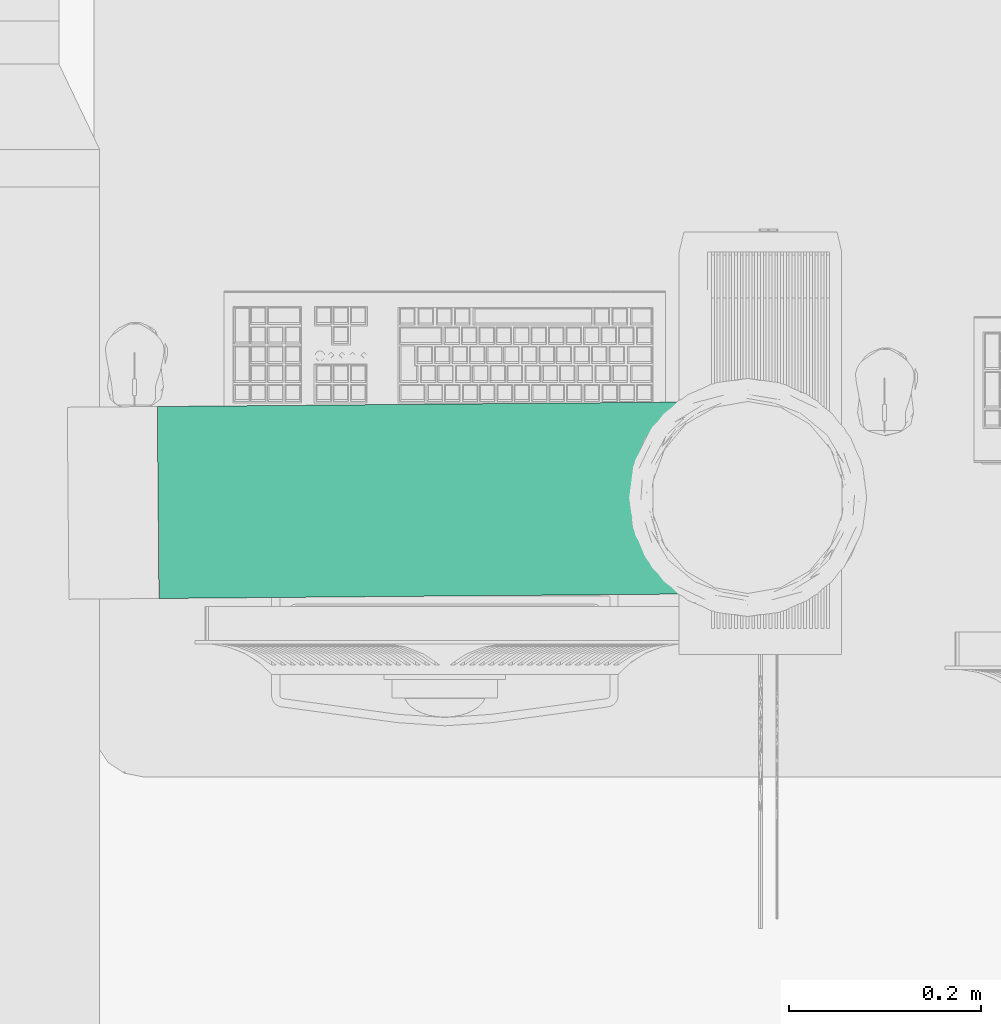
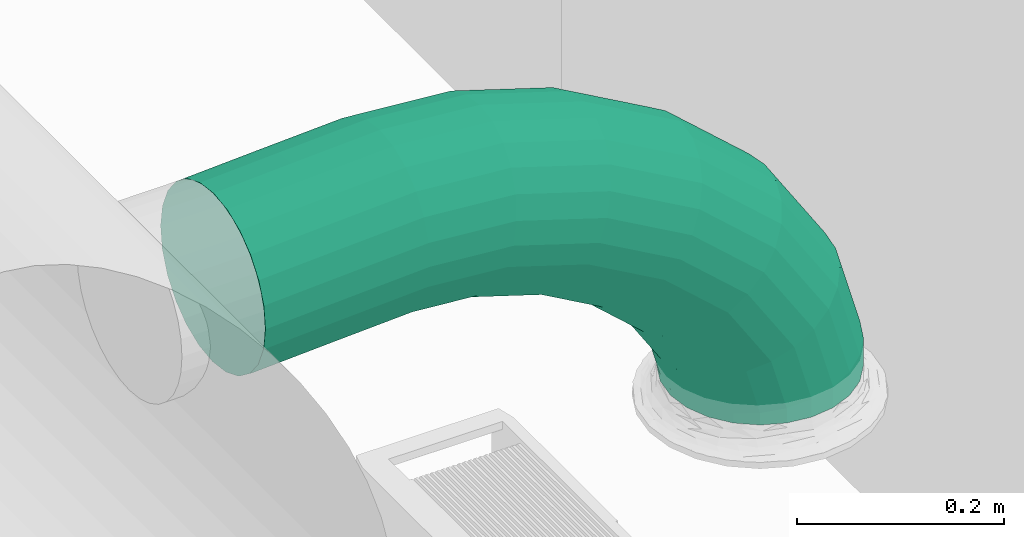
# One storey, part 25 of 31: 1 flow segment.
"""IFC2X3 building model written with IfcOpenShell, lengths in millimetres."""

import ifcopenshell
import ifcopenshell.guid

model = None  # the IFC model being written
_history = None  # IfcOwnerHistory: only IFC2X3 demands one
_inside = {}  # id of a spatial element -> (the spatial element, [elements in it])
_under = {}  # id of a project, library or spatial element -> (it, [spatial elements below it])
_declared = {}  # id of a project -> (the project, [libraries it declares])
_typed = {}  # id of a type object -> (the type object, [elements of that type])
_made_of = {}  # id of a material, layer set ... -> (it, [elements and type objects made of it])


def new_model(schema):
    """Start an empty IFC model of exactly this schema.

    Asked for "IFC4X3", IfcOpenShell would pick the latest addendum, in which some entities
    have other attributes; the version numbers below select the first issue.
    IFC2X3 requires an IfcOwnerHistory on every rooted entity: one is made here for all.
    """
    global model, _history
    if schema == "IFC4X3":
        model = ifcopenshell.file(schema_version=(4, 3, 0, 0))
    else:
        model = ifcopenshell.file(schema=schema)
    _inside.clear()
    _under.clear()
    _declared.clear()
    _typed.clear()
    _made_of.clear()
    _history = None
    if model.schema == "IFC2X3":
        org = make("IfcOrganization", Name="unknown")
        user = make(
            "IfcPersonAndOrganization",
            ThePerson=make("IfcPerson", FamilyName="unknown"),
            TheOrganization=org,
        )
        app = make(
            "IfcApplication",
            ApplicationDeveloper=org,
            Version="unknown",
            ApplicationFullName="unknown",
            ApplicationIdentifier="unknown",
        )
        _history = make(
            "IfcOwnerHistory",
            OwningUser=user,
            OwningApplication=app,
            ChangeAction="ADDED",
            CreationDate=0,
        )
    return model


def make(cls, **values):
    """One entity of the class cls with the attributes given. An attribute that is None is left unset."""
    return model.create_entity(
        cls, **{name: value for name, value in values.items() if value is not None}
    )


def entity(cls, *values):
    """Any entity or typed value of the class cls, its attributes in the order of the schema. None: left unset."""
    e = model.create_entity(cls)
    for i, value in enumerate(values):
        if value is not None:
            e[i] = value
    return e


def rooted(cls, **values):
    """An entity with a GlobalId (a new one), such as an element, a storey or a relation."""
    return make(cls, GlobalId=ifcopenshell.guid.new(), OwnerHistory=_history, **values)


def si_unit(unit_type, name, prefix=None):
    """IfcSIUnit, for example si_unit("LENGTHUNIT", "METRE", prefix="MILLI")."""
    return make("IfcSIUnit", UnitType=unit_type, Prefix=prefix, Name=name)


def converted_unit(unit_type, name, factor, base, dimensions=None, offset=None):
    """IfcConversionBasedUnit, such as the inch: factor (a typed value) times the base unit."""
    return make(
        "IfcConversionBasedUnit"
        if offset is None
        else "IfcConversionBasedUnitWithOffset",
        ConversionOffset=offset,
        Dimensions=None
        if dimensions is None
        else entity("IfcDimensionalExponents", *dimensions),
        UnitType=unit_type,
        Name=name,
        ConversionFactor=make(
            "IfcMeasureWithUnit", ValueComponent=factor, UnitComponent=base
        ),
    )


def derived_unit(unit_type, elements):
    """IfcDerivedUnit: a product of units, each with its exponent."""
    return make(
        "IfcDerivedUnit",
        Elements=[
            make("IfcDerivedUnitElement", Unit=unit, Exponent=power)
            for unit, power in elements
        ],
        UnitType=unit_type,
    )


def assignment(units):
    """IfcUnitAssignment: the units of a project."""
    return None if units is None else make("IfcUnitAssignment", Units=units)


def point(xyz):
    """IfcCartesianPoint."""
    return None if xyz is None else make("IfcCartesianPoint", Coordinates=xyz)


def direction(xyz):
    """IfcDirection."""
    return None if xyz is None else make("IfcDirection", DirectionRatios=xyz)


def frame(location, z_axis=None, x_axis=None):
    """IfcAxis2Placement3D, a coordinate frame: its origin and axes. An axis left out is left unset."""
    return make(
        "IfcAxis2Placement3D",
        Location=point(location),
        Axis=direction(z_axis),
        RefDirection=direction(x_axis),
    )


def origin():
    """The frame at (0, 0, 0) with its axes left unset."""
    return frame((0.0, 0.0, 0.0))


def place(relative_to, where):
    """IfcLocalPlacement: puts the frame where relative to a parent placement (None: the world)."""
    return make(
        "IfcLocalPlacement", PlacementRelTo=relative_to, RelativePlacement=where
    )


def context(
    kind, dimensions, precision=None, world=None, true_north=None, identifier=None
):
    """IfcGeometricRepresentationContext, for example the 3D "Model" context."""
    return make(
        "IfcGeometricRepresentationContext",
        ContextIdentifier=identifier,
        ContextType=kind,
        CoordinateSpaceDimension=dimensions,
        Precision=precision,
        WorldCoordinateSystem=world,
        TrueNorth=true_north,
    )


def subcontext(parent, identifier, kind, view, scale=None):
    """IfcGeometricRepresentationSubContext, for example "Body" below "Model"."""
    return make(
        "IfcGeometricRepresentationSubContext",
        ContextIdentifier=identifier,
        ContextType=kind,
        ParentContext=parent,
        TargetScale=scale,
        TargetView=view,
    )


def project(units=None, contexts=None):
    """IfcProject with its units and contexts."""
    return rooted(
        "IfcProject",
        Name="project",
        RepresentationContexts=contexts,
        UnitsInContext=assignment(units),
    )


def spatial(cls, under=None, at=None, **own):
    """A site, building, storey or space (cls), placed at a placement, below another one or the project."""
    s = rooted(cls, ObjectPlacement=at, **own)
    if under is not None:
        _under.setdefault(under.id(), (under, []))[1].append(s)
    return s


def faces_of(points, faces, orient=None, outer=None):
    """IfcFace entities. A face is a list of loops; a loop is a list of indices into points, from 0.

    orient and outer hold one flag for each loop. By default every Orientation is true, the
    first loop of a face is its IfcFaceOuterBound and the others are IfcFaceBound.
    """
    made = []
    for i, loops in enumerate(faces):
        bounds = []
        for j, loop in enumerate(loops):
            is_outer = j == 0 if outer is None else outer[i][j]
            bounds.append(
                make(
                    "IfcFaceOuterBound" if is_outer else "IfcFaceBound",
                    Bound=make("IfcPolyLoop", Polygon=[points[k] for k in loop]),
                    Orientation=True if orient is None else orient[i][j],
                )
            )
        made.append(make("IfcFace", Bounds=bounds))
    return made


def faceted_brep(points, faces, orient=None, outer=None, voids=None):
    """IfcFacetedBrep: a solid bounded by flat faces; with voids (closed shells), ...WithVoids."""
    shared = [point(p) for p in points]
    hull = make("IfcClosedShell", CfsFaces=faces_of(shared, faces, orient, outer))
    if voids is None:
        return make("IfcFacetedBrep", Outer=hull)
    return make(
        "IfcFacetedBrepWithVoids",
        Outer=hull,
        Voids=[
            make(cls, CfsFaces=faces_of(shared, fs, o, b)) for cls, fs, o, b in voids
        ],
    )


def shape(context_of_items, identifier, shape_type, items):
    """IfcShapeRepresentation: the items that make up one representation, for example the "Body"."""
    return make(
        "IfcShapeRepresentation",
        ContextOfItems=context_of_items,
        RepresentationIdentifier=identifier,
        RepresentationType=shape_type,
        Items=items,
    )


def made_of(thing, what):
    """Note that an element or type object is made of a material, layer set ...; save() writes the relation."""
    if what is not None:
        _made_of.setdefault(what.id(), (what, []))[1].append(thing)
    return thing


def type_object(cls, material=None, **own):
    """A type object (cls), such as IfcWallType, which elements share."""
    return made_of(rooted(cls, **own), material)


def element(
    cls,
    number,
    at=None,
    inside=None,
    cuts=None,
    type_object=None,
    material=None,
    context=None,
    identifier="Body",
    shape_type=None,
    held_by="IfcProductDefinitionShape",
    body=None,
    shapes=None,
    **own,
):
    """One element of the class cls, such as IfcWall. Its Tag is "e" and its number.

    at: its placement. inside: the storey or other place that contains it. cuts: it is an
    opening in that element (IfcRelVoidsElement). A single representation is given by context,
    identifier, shape_type and body (its items); several are given by shapes. held_by: the class
    of the entity that holds the representations. save() writes the other relations.
    """
    e = rooted(cls, Tag="e%d" % number, ObjectPlacement=at, **own)
    if body is not None:
        shapes = [shape(context, identifier, shape_type, body)]
    if shapes is not None:
        e.Representation = make(held_by, Representations=shapes)
    if inside is not None:
        _inside.setdefault(inside.id(), (inside, []))[1].append(e)
    if cuts is not None:
        rooted(
            "IfcRelVoidsElement", RelatingBuildingElement=cuts, RelatedOpeningElement=e
        )
    if type_object is not None:
        _typed.setdefault(type_object.id(), (type_object, []))[1].append(e)
    return made_of(e, material)


def aggregate(whole, parts):
    """IfcRelAggregates: a whole, such as a stair, and the parts it consists of."""
    return rooted("IfcRelAggregates", RelatingObject=whole, RelatedObjects=parts)


def save(model, path):
    """Write the relations noted so far, then the file.

    IfcRelAggregates (storeys below a building ...), IfcRelContainedInSpatialStructure (elements
    in a storey), IfcRelDefinesByType, IfcRelAssociatesMaterial and IfcRelDeclares: one each for
    every whole, place, type object, material and project.
    """
    for whole, parts in _under.values():
        aggregate(whole, parts)
    for where, things in _inside.values():
        rooted(
            "IfcRelContainedInSpatialStructure",
            RelatedElements=things,
            RelatingStructure=where,
        )
    for kind, things in _typed.values():
        rooted("IfcRelDefinesByType", RelatedObjects=things, RelatingType=kind)
    for what, things in _made_of.values():
        rooted("IfcRelAssociatesMaterial", RelatedObjects=things, RelatingMaterial=what)
    for by, libraries in _declared.values():
        rooted("IfcRelDeclares", RelatingContext=by, RelatedDefinitions=libraries)
    model.write(path)


model = new_model("IFC2X3")

# Units and contexts
model_context = context("Model", 3, precision=0.01, world=origin(), true_north=direction((6.123031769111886e-17, 1.0)))
body_context = subcontext(model_context, "Body", "Model", "MODEL_VIEW")
ifc_project = project(units=[si_unit("LENGTHUNIT", "METRE", prefix="MILLI"), si_unit("AREAUNIT", "SQUARE_METRE"), si_unit("VOLUMEUNIT", "CUBIC_METRE"), converted_unit("PLANEANGLEUNIT", "DEGREE", entity("IfcRatioMeasure", 0.017453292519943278), si_unit("PLANEANGLEUNIT", "RADIAN"), dimensions=[0, 0, 0, 0, 0, 0, 0]), si_unit("MASSUNIT", "GRAM", prefix="KILO"), derived_unit("MASSDENSITYUNIT", [(si_unit("MASSUNIT", "GRAM", prefix="KILO"), 1), (si_unit("LENGTHUNIT", "METRE"), -3)]), derived_unit("MOMENTOFINERTIAUNIT", [(si_unit("LENGTHUNIT", "METRE"), 4)]), si_unit("TIMEUNIT", "SECOND"), si_unit("FREQUENCYUNIT", "HERTZ"), si_unit("THERMODYNAMICTEMPERATUREUNIT", "DEGREE_CELSIUS"), derived_unit("THERMALTRANSMITTANCEUNIT", [(si_unit("MASSUNIT", "GRAM", prefix="KILO"), 1), (si_unit("THERMODYNAMICTEMPERATUREUNIT", "KELVIN"), -1), (si_unit("TIMEUNIT", "SECOND"), -3)]), derived_unit("VOLUMETRICFLOWRATEUNIT", [(si_unit("LENGTHUNIT", "METRE"), 3), (si_unit("TIMEUNIT", "SECOND"), -1)]), derived_unit("MASSFLOWRATEUNIT", [(si_unit("MASSUNIT", "GRAM", prefix="KILO"), 1), (si_unit("TIMEUNIT", "SECOND"), -1)]), derived_unit("ROTATIONALFREQUENCYUNIT", [(si_unit("TIMEUNIT", "SECOND"), -1)]), si_unit("ELECTRICCURRENTUNIT", "AMPERE"), si_unit("ELECTRICVOLTAGEUNIT", "VOLT"), si_unit("POWERUNIT", "WATT"), si_unit("FORCEUNIT", "NEWTON", prefix="KILO"), si_unit("ILLUMINANCEUNIT", "LUX"), si_unit("LUMINOUSFLUXUNIT", "LUMEN"), si_unit("LUMINOUSINTENSITYUNIT", "CANDELA"), derived_unit("USERDEFINED", [(si_unit("MASSUNIT", "GRAM", prefix="KILO"), -1), (si_unit("LENGTHUNIT", "METRE"), -2), (si_unit("TIMEUNIT", "SECOND"), 3), (si_unit("LUMINOUSFLUXUNIT", "LUMEN"), 1)]), derived_unit("SOUNDPOWERUNIT", [(si_unit("MASSUNIT", "GRAM", prefix="KILO"), 1), (si_unit("LENGTHUNIT", "METRE"), 2), (si_unit("TIMEUNIT", "SECOND"), -3)]), derived_unit("SOUNDPRESSUREUNIT", [(si_unit("MASSUNIT", "GRAM", prefix="KILO"), 1), (si_unit("LENGTHUNIT", "METRE"), -1), (si_unit("TIMEUNIT", "SECOND"), -2)]), derived_unit("LINEARVELOCITYUNIT", [(si_unit("LENGTHUNIT", "METRE"), 1), (si_unit("TIMEUNIT", "SECOND"), -1)]), si_unit("PRESSUREUNIT", "PASCAL"), derived_unit("USERDEFINED", [(si_unit("LENGTHUNIT", "METRE"), -2), (si_unit("MASSUNIT", "GRAM", prefix="KILO"), 1), (si_unit("TIMEUNIT", "SECOND"), -2)]), derived_unit("LINEARFORCEUNIT", [(si_unit("MASSUNIT", "GRAM", prefix="KILO"), 1), (si_unit("LENGTHUNIT", "METRE"), 1), (si_unit("TIMEUNIT", "SECOND"), -2), (si_unit("LENGTHUNIT", "METRE"), -1)]), derived_unit("PLANARFORCEUNIT", [(si_unit("MASSUNIT", "GRAM", prefix="KILO"), 1), (si_unit("LENGTHUNIT", "METRE"), 1), (si_unit("TIMEUNIT", "SECOND"), -2), (si_unit("LENGTHUNIT", "METRE"), -2)])], contexts=[model_context])

# Site, building, storey
site_placement = place(None, origin())
site = spatial("IfcSite", under=ifc_project, at=site_placement, Name="Default", CompositionType="ELEMENT")
building_placement = place(site_placement, origin())
building = spatial("IfcBuilding", under=site, at=building_placement, CompositionType="ELEMENT")
storey_placement = place(building_placement, frame((0.0, 0.0, 3880.0)))
storey = spatial("IfcBuildingStorey", under=building, at=storey_placement, Name="Niveau 1", CompositionType="ELEMENT", Elevation=3880.0)

# Flow segment
duct_segment_type = type_object("IfcDuctSegmentType", Name="Gaine flexible circulaire:Souple - Circulaire piquage Aldes", PredefinedType="FLEXIBLESEGMENT")
flow_segment_placement = place(storey_placement, frame((-1936.5974043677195, -10036.802766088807, 2827.5000000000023)))
element("IfcFlowSegment", 1, at=flow_segment_placement, inside=storey, type_object=duct_segment_type, Name="Gaine flexible circulaire:Souple - Circulaire piquage Aldes", ObjectType="Gaine flexible circulaire:Souple - Circulaire piquage Aldes", context=body_context, shape_type="Brep", body=[
    faceted_brep([(520.0048217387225, 80.92086157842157, 0.0), (516.5974043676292, 106.80276608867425, 0.0), (520.0048217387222, 132.68467059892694, 0.0), (529.9948639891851, 156.8027660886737, 0.0), (545.8867262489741, 177.51344420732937, 0.0), (566.5974043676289, 193.40530646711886, 0.0), (590.7154998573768, 203.39534871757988, 0.0), (616.5974043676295, 206.80276608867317, 0.0), (642.4793088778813, 203.39534871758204, 0.0), (666.5974043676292, 193.40530646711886, 0.0), (687.3080824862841, 177.51344420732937, 0.0), (703.199944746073, 156.8027660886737, 0.0), (713.1899869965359, 132.68467059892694, 0.0), (716.5974043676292, 106.80276608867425, 0.0), (713.1899869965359, 80.92086157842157, 0.0), (703.199944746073, 56.80276608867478, 0.0), (687.3080824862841, 36.09208797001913, 0.0), (666.5974043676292, 20.20022571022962, 0.0), (642.4793088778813, 10.210183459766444, 0.0), (616.5974043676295, 6.802766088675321, 0.0), (590.7154998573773, 10.210183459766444, 0.0), (566.5974043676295, 20.20022571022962, 0.0), (545.8867262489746, 36.09208797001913, 0.0), (529.9948639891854, 56.80276608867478, 0.0), (716.5974043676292, 106.80276608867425, 35.145896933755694), (713.1899869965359, 80.92086157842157, 34.64060889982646), (703.1999447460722, 56.80276608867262, 33.2204072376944), (687.3080824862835, 36.09208797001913, 30.982076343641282), (666.5974043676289, 20.20022571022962, 28.078154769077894), (642.4793088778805, 10.210183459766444, 24.706539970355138), (616.5974043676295, 6.802766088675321, 21.097001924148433), (590.7154998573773, 10.210183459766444, 17.495524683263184), (566.5974043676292, 20.20022571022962, 14.147542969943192), (545.8867262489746, 36.09208797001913, 11.28121620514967), (520.0048217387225, 80.92086157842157, 7.728733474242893), (516.5974043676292, 106.80276608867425, 7.2846733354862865), (529.9948639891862, 56.80276608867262, 9.091879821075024), (529.9948639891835, 156.80276608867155, 9.210163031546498), (545.8867262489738, 177.51344420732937, 11.4484939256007), (520.0048217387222, 132.68467059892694, 7.789961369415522), (590.7154998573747, 203.39534871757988, 17.72403029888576), (616.5974043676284, 206.80276608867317, 21.33356834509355), (566.5974043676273, 193.4053064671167, 14.352415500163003), (642.4793088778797, 203.39534871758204, 24.935045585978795), (666.5974043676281, 193.40530646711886, 28.28302729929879), (687.3080824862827, 177.51344420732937, 31.14935406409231), (703.199944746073, 156.8027660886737, 33.33869044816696), (713.1899869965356, 132.68467059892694, 34.70183679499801), (1.7054158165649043, 188.60887405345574, 273.2371079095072), (1.8388490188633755, 172.89399672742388, 252.39224522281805), (2.0135426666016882, 152.31973787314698, 236.32511016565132), (2.2175916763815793, 128.2881992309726, 226.1306514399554), (2.4370904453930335, 102.4370904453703, 222.50360456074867), (2.6570804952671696, 76.5281218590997, 225.6911467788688), (2.862569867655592, 52.32694686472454, 235.47605235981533), (3.039554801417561, 31.482835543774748, 251.19149615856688), (3.175974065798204, 15.416279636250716, 271.7664966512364), (3.2625309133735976, 5.222188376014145, 295.79890155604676), (3.293326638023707, 1.5952722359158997, 321.65094219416), (3.2662625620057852, 4.782699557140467, 347.5608447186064), (3.1831830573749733, 14.567252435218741, 371.7628920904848), (3.049749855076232, 30.282129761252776, 392.60775477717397), (2.8750562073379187, 50.85638861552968, 408.67488983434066), (2.6710071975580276, 74.88792725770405, 418.8693485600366), (2.4515084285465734, 100.73903604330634, 422.4963954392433), (2.2315183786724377, 126.64800462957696, 419.3088532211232), (2.026029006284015, 150.8491796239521, 409.5239476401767), (1.8490440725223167, 171.6932909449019, 393.8085038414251), (1.7126248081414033, 187.75984685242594, 373.23350334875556), (1.6260679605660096, 197.9539381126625, 349.2010984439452), (1.5952722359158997, 201.58085425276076, 323.349057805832), (1.6223363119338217, 198.39342693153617, 297.4391552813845), (689.1857292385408, 106.57001673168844, 131.62292488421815), (686.064584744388, 80.69054293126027, 130.11008236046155), (676.8791632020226, 56.579279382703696, 125.85797005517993), (662.2554359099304, 35.879368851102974, 119.15636239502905), (643.1899857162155, 20.00147603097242, 110.46196286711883), (620.9820915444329, 10.027653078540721, 100.3672804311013), (597.14518468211, 6.63759954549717, 89.56025101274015), (573.3037109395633, 10.062341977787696, 78.77735580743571), (551.0824273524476, 20.068489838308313, 68.75343130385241), (531.9956776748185, 35.97414068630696, 60.171591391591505), (517.3441923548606, 56.69535070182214, 53.616674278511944), (508.1264459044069, 80.82000366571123, 49.535386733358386), (504.9706125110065, 106.70404434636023, 48.205861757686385), (508.0917570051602, 132.58351814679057, 49.718704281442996), (517.2771785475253, 156.69478169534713, 53.9708165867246), (531.900905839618, 177.3946922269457, 60.67242424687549), (573.1742502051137, 203.24640799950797, 79.46150621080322), (597.0111570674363, 206.6364615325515, 90.26853562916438), (550.9663560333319, 193.27258504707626, 69.3668237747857), (620.8526308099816, 203.21171910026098, 101.05143083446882), (643.073914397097, 193.20557123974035, 111.07535533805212), (662.1606640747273, 177.29992039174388, 119.65719525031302), (676.8121493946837, 156.57871037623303, 126.2121123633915), (686.0298958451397, 132.45405741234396, 130.29339990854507), (621.3775717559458, 105.99426552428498, 236.58525380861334), (618.813494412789, 80.1195217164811, 234.21010993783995), (611.1938089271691, 56.02155265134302, 227.53434671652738), (599.0377842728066, 35.342595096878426, 217.01290637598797), (583.1738334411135, 19.491885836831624, 203.36280768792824), (564.683058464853, 9.54962451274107, 187.51428232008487), (544.8255751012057, 6.1933598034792, 170.5473810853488), (524.9546380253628, 9.651815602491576, 153.6183702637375), (506.4244187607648, 19.689303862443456, 137.8809339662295), (490.49772112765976, 35.62178634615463, 124.40755246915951), (478.2599232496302, 56.363490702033, 114.11641445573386), (470.5450108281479, 80.50090405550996, 107.7088439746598), (467.87874239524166, 106.38910157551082, 105.62150636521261), (470.44281973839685, 132.26384538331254, 107.99665023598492), (478.06250522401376, 156.36181444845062, 114.67241345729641), (490.2185298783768, 177.04077200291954, 125.19385379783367), (524.5732556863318, 202.83374258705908, 154.69247785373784), (544.4307390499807, 206.1900072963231, 171.65937908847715), (506.08248071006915, 192.89148126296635, 138.84395248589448), (564.3016761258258, 202.73155149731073, 188.58838991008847), (582.8318953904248, 192.6940632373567, 204.32582620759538), (598.7585930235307, 176.76158075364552, 217.79920770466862), (610.9963909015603, 156.01987639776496, 228.09034571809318), (618.7113033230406, 131.88246304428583, 234.49791619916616), (527.2104114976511, 105.19470307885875, 321.13928968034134), (525.2973362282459, 79.32548685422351, 318.1796017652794), (519.5074075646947, 55.24305404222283, 309.8608738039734), (510.23519957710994, 34.58858264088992, 296.7500133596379), (498.11259791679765, 18.769640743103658, 279.7405039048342), (483.96573785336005, 8.864263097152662, 259.9915153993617), (468.7587045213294, 5.547484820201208, 238.84890877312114), (453.52783211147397, 9.045338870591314, 217.75351772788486), (439.31107940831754, 19.119452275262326, 198.14295830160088), (427.07729461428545, 35.0832908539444, 181.35365771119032), (417.66018994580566, 55.848945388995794, 168.5297790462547), (411.7015255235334, 80.00127084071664, 160.54524844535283), (409.607374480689, 105.89432614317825, 157.94419847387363), (411.520449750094, 131.7635423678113, 160.90388638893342), (417.3103784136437, 155.845975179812, 169.2226143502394), (426.5825864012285, 176.5004465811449, 182.33347479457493), (452.8520481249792, 202.2247661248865, 219.09197275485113), (468.0590814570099, 205.54154440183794, 240.23457938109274), (438.7051880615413, 192.3193884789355, 199.34298424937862), (483.28995386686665, 202.04369035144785, 261.32997042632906), (497.50670657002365, 191.96957694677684, 280.9405298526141), (509.74049136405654, 176.0057383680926, 297.7298304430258), (519.1575960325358, 155.2400838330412, 310.5537091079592), (525.1162604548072, 131.08775838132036, 318.53823970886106), (418.0000501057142, 104.26741055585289, 383.258307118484), (416.7537725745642, 78.40385603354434, 379.91934364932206), (412.83799725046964, 54.33733644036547, 370.5345944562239), (406.51957775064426, 33.70794531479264, 355.74361468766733), (398.229103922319, 17.921541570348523, 336.55438517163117), (388.5315578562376, 8.05394253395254, 314.27462018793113), (378.0878112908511, 4.777608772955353, 290.4226489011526), (367.609588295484, 8.315817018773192, 266.6239437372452), (357.81096245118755, 18.4274442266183, 244.50034712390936), (349.3596939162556, 34.42339971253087, 225.55954560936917), (342.831722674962, 55.21358554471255, 211.09232351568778), (338.67191917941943, 79.38118491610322, 202.08459812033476), (337.16376716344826, 105.27921586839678, 199.15023102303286), (338.41004469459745, 131.142770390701, 202.4891944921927), (342.3258200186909, 155.20928998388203, 211.8739436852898), (348.64423951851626, 175.83868110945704, 226.66492345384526), (366.6322594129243, 201.49268389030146, 268.13391795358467), (377.07600597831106, 204.76901765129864, 291.9858892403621), (356.9347133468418, 191.6250848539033, 245.8541529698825), (387.5542289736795, 201.2308094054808, 315.7845944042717), (397.35285481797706, 191.11918219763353, 337.9081910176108), (405.8041233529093, 175.12322671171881, 356.848992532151), (412.33209459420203, 154.33304087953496, 371.3162146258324), (416.4918980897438, 130.16544150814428, 380.32394002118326), (301.36443132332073, 103.27707103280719, 420.64719180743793), (300.8567358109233, 77.41978772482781, 417.0714674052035), (299.01687628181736, 53.37089449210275, 407.02125960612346), (295.97023612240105, 32.769283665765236, 391.18147346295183), (291.9244388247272, 17.018920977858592, 370.63156422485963), (287.15519878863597, 7.193167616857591, 346.77197424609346), (281.98753184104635, 3.9616324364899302, 321.2286951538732), (276.773605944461, 7.544539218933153, 295.7424592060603), (271.86874153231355, 17.697718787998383, 272.0501112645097), (267.60719700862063, 33.72924873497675, 251.7662456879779), (264.27938959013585, 54.546606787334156, 236.2731743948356), (262.1121038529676, 78.73112439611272, 226.6267245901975), (261.253036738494, 104.63466665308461, 223.48428588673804), (261.7607322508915, 130.49194996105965, 227.0600102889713), (263.60059177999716, 154.5408431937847, 237.11021808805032), (266.6472319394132, 175.14245402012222, 252.95000423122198), (275.4622692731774, 200.71857006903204, 297.3595034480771), (280.6299362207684, 203.95010524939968, 322.9027825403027), (270.69302923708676, 190.89281670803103, 273.499913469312), (285.84386211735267, 200.36719846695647, 348.38901848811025), (290.74872652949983, 190.2140188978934, 372.0813664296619), (295.0102710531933, 174.1824889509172, 392.3652320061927), (298.3380784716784, 153.36513089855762, 407.8583032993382), (300.5053642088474, 129.1806132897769, 417.50475310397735), (189.3984437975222, 102.32638080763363, 430.8736737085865), (189.53192375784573, 76.47454164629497, 427.2393871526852), (189.49420164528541, 52.440950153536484, 417.02458003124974), (189.2878481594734, 31.86345587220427, 400.9253745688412), (188.92692594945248, 16.144381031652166, 380.0389050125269), (188.43603126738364, 6.354954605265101, 355.7885497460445), (187.8486177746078, 3.1623098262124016, 329.82693040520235), (187.20471672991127, 6.784020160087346, 303.92328844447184), (186.54820892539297, 16.973272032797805, 279.8429142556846), (185.92383428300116, 33.03568476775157, 259.226845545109), (185.3741429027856, 53.876631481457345, 243.48003332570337), (184.93659534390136, 78.0758360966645, 233.67559682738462), (184.641009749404, 103.9841628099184, 230.48169219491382), (184.50752978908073, 129.83600197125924, 234.1159787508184), (184.5452519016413, 153.8695934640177, 244.33078587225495), (184.7516053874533, 174.44708774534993, 260.4299913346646), (185.60342227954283, 199.95558901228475, 305.56681615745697), (186.1908357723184, 203.14823379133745, 331.5284354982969), (185.11252759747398, 190.1661625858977, 281.3164608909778), (186.8347368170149, 199.5265234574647, 357.43207745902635), (187.4912446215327, 189.3372715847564, 381.5124516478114), (188.11561926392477, 173.27485884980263, 402.1285203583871), (188.66531064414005, 152.43391213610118, 417.8753325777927), (189.10285820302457, 128.2347075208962, 427.67976907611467), (90.19192659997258, 101.48402976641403, 426.53052258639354), (90.57608805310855, 75.63431911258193, 422.90721058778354), (91.24295074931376, 51.60671016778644, 412.7232494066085), (92.14706909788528, 31.038644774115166, 396.672659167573), (93.22682892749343, 15.331802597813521, 375.8492610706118), (94.40864639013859, 5.556578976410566, 351.67213528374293), (95.61198257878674, 2.3791392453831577, 325.7889129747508), (96.75483212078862, 6.0160206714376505, 299.9634929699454), (97.75931170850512, 16.219375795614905, 275.9558349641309), (98.55696771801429, 32.29386282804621, 255.4020211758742), (99.09344121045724, 53.14403204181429, 239.70276004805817), (99.33217240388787, 77.34897886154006, 229.9279302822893), (99.25689216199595, 103.25917616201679, 226.74367037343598), (98.87273070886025, 129.10888681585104, 230.36698237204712), (98.20586801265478, 153.13649576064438, 240.55094355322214), (97.30174966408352, 173.70456115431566, 256.6015337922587), (95.04017237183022, 199.18662695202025, 301.6020576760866), (93.83683618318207, 202.36406668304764, 327.4852799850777), (96.2219898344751, 189.41140333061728, 277.4249318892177), (92.69398664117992, 198.72718525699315, 353.31069998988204), (91.68950705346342, 188.52383013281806, 377.3183579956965), (90.89185104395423, 172.44934310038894, 397.8721717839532), (90.35537755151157, 151.59917388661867, 413.5714329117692), (90.11664635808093, 127.39422706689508, 423.3462626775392), (4.880407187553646, 74.90668701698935, 418.8693485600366), (5.324480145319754, 50.877186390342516, 408.67488983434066), (4.575511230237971, 100.75707070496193, 422.4963954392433), (5.877467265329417, 30.306139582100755, 392.60775477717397), (7.154589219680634, 4.815714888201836, 347.5608447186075), (7.791690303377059, 1.633467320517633, 321.65094219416), (6.501683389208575, 14.595429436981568, 371.7628920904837), (8.369569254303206, 5.265551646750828, 295.79890155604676), (8.848844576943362, 15.46444732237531, 271.7664966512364), (9.196854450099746, 31.53511646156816, 251.19149615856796), (9.389882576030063, 52.382369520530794, 235.47605235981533), (9.414774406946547, 76.58550065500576, 225.6911467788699), (9.269833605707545, 102.49510647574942, 222.50360456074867), (8.964937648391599, 128.345490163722, 226.1306514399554), (8.520864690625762, 152.37499079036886, 236.32511016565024), (7.967877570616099, 172.94603759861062, 252.39224522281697), (7.343661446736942, 188.65674774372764, 273.2371079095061), (6.69075561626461, 198.43646229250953, 297.43915528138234), (6.053654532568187, 201.61870986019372, 323.349057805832), (5.47577558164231, 197.98662553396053, 349.20109844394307), (4.996500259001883, 187.78772985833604, 373.2335033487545), (4.648490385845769, 171.7170607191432, 393.808503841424), (4.4554622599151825, 150.86980766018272, 409.5239476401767), (4.430570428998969, 126.66667652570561, 419.3088532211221)], [[[0, 1, 2, 3, 4, 5, 6, 7, 8, 9, 10, 11, 12, 13, 14, 15, 16, 17, 18, 19, 20, 21, 22, 23]], [[13, 24, 25, 14]], [[14, 25, 26, 15]], [[15, 26, 27, 16]], [[17, 28, 29, 18]], [[18, 29, 30, 19]], [[16, 27, 28, 17]], [[31, 32, 21, 20]], [[30, 31, 20, 19]], [[21, 32, 33, 22]], [[34, 35, 1, 0]], [[36, 34, 0, 23]], [[22, 33, 36, 23]], [[3, 37, 38, 4]], [[39, 37, 3, 2]], [[1, 35, 39, 2]], [[40, 41, 7, 6]], [[42, 40, 6, 5]], [[38, 42, 5, 4]], [[9, 8, 43, 44]], [[10, 9, 44, 45]], [[7, 41, 43, 8]], [[12, 11, 46, 47]], [[13, 12, 47, 24]], [[45, 46, 11, 10]], [[48, 49, 50, 51, 52, 53, 54, 55, 56, 57, 58, 59, 60, 61, 62, 63, 64, 65, 66, 67, 68, 69, 70, 71]], [[24, 72, 73, 25]], [[25, 73, 74, 26]], [[26, 74, 75, 27]], [[27, 75, 76, 28]], [[28, 76, 77, 29]], [[78, 30, 29, 77]], [[79, 80, 32, 31]], [[78, 79, 31, 30]], [[81, 33, 32, 80]], [[82, 83, 34, 36]], [[82, 36, 33, 81]], [[84, 35, 34, 83]], [[85, 86, 37, 39]], [[84, 85, 39, 35]], [[38, 37, 86, 87]], [[88, 89, 41, 40]], [[90, 88, 40, 42]], [[87, 90, 42, 38]], [[43, 41, 89, 91]], [[44, 43, 91, 92]], [[45, 44, 92, 93]], [[47, 46, 94, 95]], [[24, 47, 95, 72]], [[93, 94, 46, 45]], [[73, 72, 96, 97]], [[74, 73, 97, 98]], [[98, 99, 75, 74]], [[76, 75, 99, 100]], [[77, 76, 100, 101]], [[78, 77, 101, 102]], [[103, 104, 80, 79]], [[102, 103, 79, 78]], [[81, 80, 104, 105]], [[106, 107, 83, 82]], [[105, 106, 82, 81]], [[84, 83, 107, 108]], [[109, 110, 86, 85]], [[108, 109, 85, 84]], [[111, 87, 86, 110]], [[112, 113, 89, 88]], [[114, 112, 88, 90]], [[114, 90, 87, 111]], [[89, 113, 115, 91]], [[91, 115, 116, 92]], [[117, 93, 92, 116]], [[94, 118, 119, 95]], [[95, 119, 96, 72]], [[118, 94, 93, 117]], [[97, 96, 120, 121]], [[98, 97, 121, 122]], [[122, 123, 99, 98]], [[100, 99, 123, 124]], [[101, 100, 124, 125]], [[102, 101, 125, 126]], [[127, 128, 104, 103]], [[126, 127, 103, 102]], [[105, 104, 128, 129]], [[130, 131, 107, 106]], [[129, 130, 106, 105]], [[108, 107, 131, 132]], [[133, 134, 110, 109]], [[132, 133, 109, 108]], [[135, 111, 110, 134]], [[136, 137, 113, 112]], [[138, 136, 112, 114]], [[138, 114, 111, 135]], [[113, 137, 139, 115]], [[115, 139, 140, 116]], [[141, 117, 116, 140]], [[118, 142, 143, 119]], [[119, 143, 120, 96]], [[142, 118, 117, 141]], [[121, 120, 144, 145]], [[122, 121, 145, 146]], [[146, 147, 123, 122]], [[124, 123, 147, 148]], [[125, 124, 148, 149]], [[126, 125, 149, 150]], [[151, 152, 128, 127]], [[150, 151, 127, 126]], [[129, 128, 152, 153]], [[154, 155, 131, 130]], [[153, 154, 130, 129]], [[132, 131, 155, 156]], [[157, 158, 134, 133]], [[156, 157, 133, 132]], [[159, 135, 134, 158]], [[160, 161, 137, 136]], [[162, 160, 136, 138]], [[162, 138, 135, 159]], [[137, 161, 163, 139]], [[139, 163, 164, 140]], [[165, 141, 140, 164]], [[142, 166, 167, 143]], [[143, 167, 144, 120]], [[166, 142, 141, 165]], [[144, 168, 169, 145]], [[145, 169, 170, 146]], [[146, 170, 171, 147]], [[147, 171, 172, 148]], [[148, 172, 173, 149]], [[174, 150, 149, 173]], [[175, 176, 152, 151]], [[174, 175, 151, 150]], [[177, 153, 152, 176]], [[178, 179, 155, 154]], [[178, 154, 153, 177]], [[180, 156, 155, 179]], [[181, 182, 158, 157]], [[180, 181, 157, 156]], [[159, 158, 182, 183]], [[184, 185, 161, 160]], [[186, 184, 160, 162]], [[183, 186, 162, 159]], [[163, 161, 185, 187]], [[164, 163, 187, 188]], [[165, 164, 188, 189]], [[167, 166, 190, 191]], [[144, 167, 191, 168]], [[189, 190, 166, 165]], [[169, 168, 192, 193]], [[170, 169, 193, 194]], [[194, 195, 171, 170]], [[172, 171, 195, 196]], [[173, 172, 196, 197]], [[174, 173, 197, 198]], [[199, 200, 176, 175]], [[198, 199, 175, 174]], [[177, 176, 200, 201]], [[202, 203, 179, 178]], [[201, 202, 178, 177]], [[180, 179, 203, 204]], [[205, 206, 182, 181]], [[204, 205, 181, 180]], [[207, 183, 182, 206]], [[208, 209, 185, 184]], [[210, 208, 184, 186]], [[210, 186, 183, 207]], [[185, 209, 211, 187]], [[187, 211, 212, 188]], [[213, 189, 188, 212]], [[190, 214, 215, 191]], [[191, 215, 192, 168]], [[214, 190, 189, 213]], [[193, 192, 216, 217]], [[194, 193, 217, 218]], [[218, 219, 195, 194]], [[196, 195, 219, 220]], [[197, 196, 220, 221]], [[198, 197, 221, 222]], [[223, 224, 200, 199]], [[222, 223, 199, 198]], [[201, 200, 224, 225]], [[226, 227, 203, 202]], [[225, 226, 202, 201]], [[204, 203, 227, 228]], [[229, 230, 206, 205]], [[228, 229, 205, 204]], [[231, 207, 206, 230]], [[232, 233, 209, 208]], [[234, 232, 208, 210]], [[234, 210, 207, 231]], [[209, 233, 235, 211]], [[211, 235, 236, 212]], [[237, 213, 212, 236]], [[214, 238, 239, 215]], [[215, 239, 216, 192]], [[238, 214, 213, 237]], [[240, 241, 218, 217]], [[242, 240, 217, 216]], [[241, 243, 219, 218]], [[244, 245, 222, 221]], [[246, 244, 221, 220]], [[243, 246, 220, 219]], [[223, 222, 245, 247]], [[224, 223, 247, 248]], [[225, 224, 248, 249]], [[227, 226, 250, 251]], [[228, 227, 251, 252]], [[249, 250, 226, 225]], [[228, 252, 253, 229]], [[229, 253, 254, 230]], [[255, 231, 230, 254]], [[231, 255, 256, 234]], [[234, 256, 257, 232]], [[258, 233, 232, 257]], [[259, 260, 236, 235]], [[258, 259, 235, 233]], [[261, 237, 236, 260]], [[262, 263, 239, 238]], [[262, 238, 237, 261]], [[242, 216, 239, 263]], [[242, 64, 63, 240]], [[240, 63, 62, 241]], [[241, 62, 61, 243]], [[59, 58, 245, 244]], [[60, 59, 244, 246]], [[246, 243, 61, 60]], [[245, 58, 57, 247]], [[247, 57, 56, 248]], [[248, 56, 55, 249]], [[250, 54, 53, 251]], [[251, 53, 52, 252]], [[249, 55, 54, 250]], [[253, 252, 52, 51]], [[254, 253, 51, 50]], [[255, 254, 50, 49]], [[257, 256, 48, 71]], [[258, 257, 71, 70]], [[49, 48, 256, 255]], [[259, 258, 70, 69]], [[260, 259, 69, 68]], [[261, 260, 68, 67]], [[263, 262, 66, 65]], [[242, 263, 65, 64]], [[261, 67, 66, 262]]]),
])

save(model, "model.ifc")
